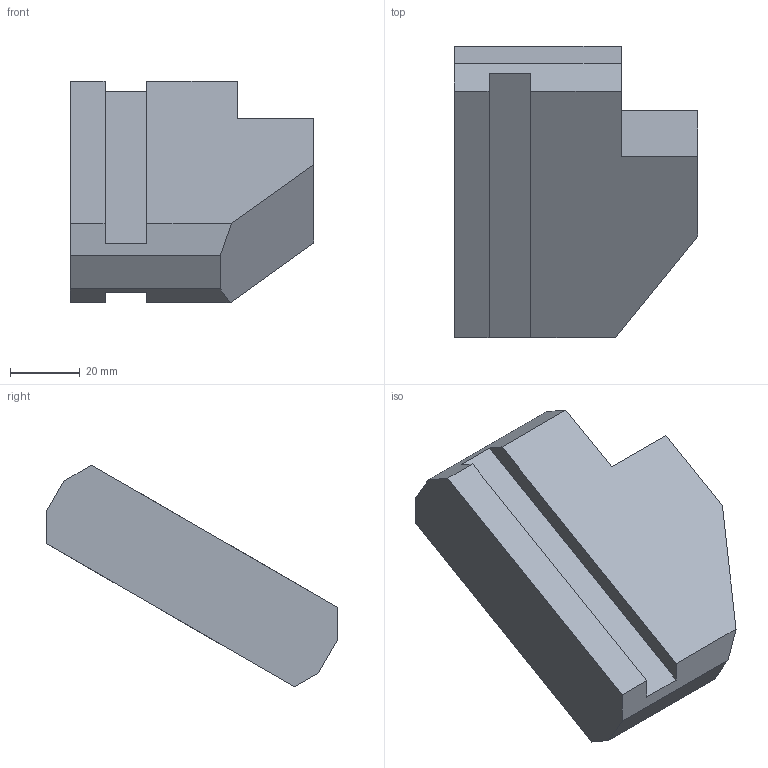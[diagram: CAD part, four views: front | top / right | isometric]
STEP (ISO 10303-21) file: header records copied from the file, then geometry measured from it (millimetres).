
FILE_DESCRIPTION(('CATIA V5 STEP Exchange'),'2;1');
FILE_NAME('D:\Clients_NCS8\Cenit-AG\Import\OKUMA250\C1-M3.stp','2005-03-09T16:51:29+00:00',('none'),('none'),'CATIA Version 5 Release 14 (IN-10)','CATIA V5 STEP AP203','none');
FILE_SCHEMA(('CONFIG_CONTROL_DESIGN'));
Length unit declared in the file: millimetre
Products named in the file (2): okuma_dr-fr; FORKART_FNC315
Assembly tree (2 placements, depth 3):
  okuma_dr-fr
    FORKART_FNC315
      #62
Bounding box: 70 x 83.81 x 63.71 mm (x, y, z)
Volume: 123882.3 mm3; surface area: 19284.7 mm2
Topology: 1 solids, 1 shells, 21 faces, 57 edges, 38 vertices
Faces by surface type: plane 21
Entity records: 714 total; most frequent: CARTESIAN_POINT 116, ORIENTED_EDGE 114, DIRECTION 99, VECTOR 57, EDGE_CURVE 57, LINE 57, VERTEX_POINT 38, AXIS2_PLACEMENT_3D 21
